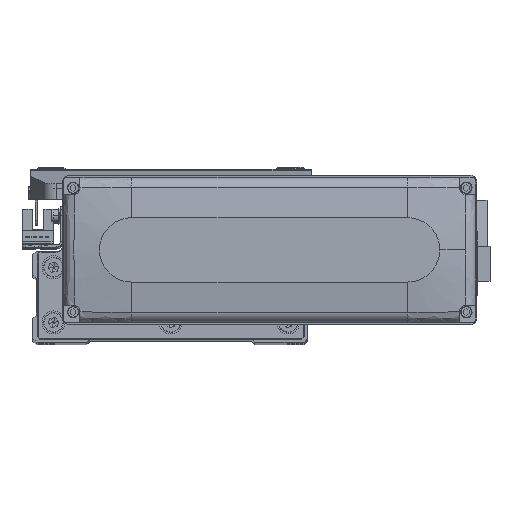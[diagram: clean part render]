
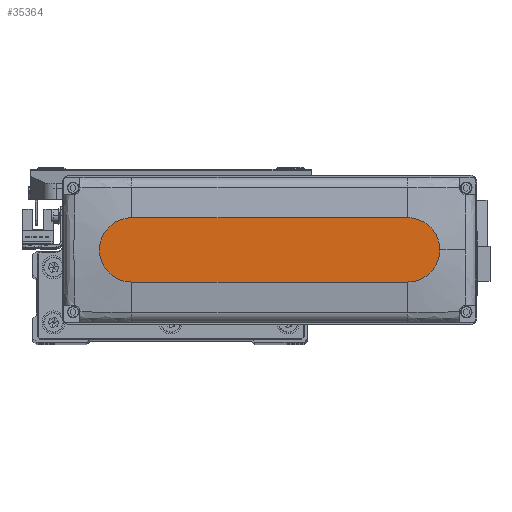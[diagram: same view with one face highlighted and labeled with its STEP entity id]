
A CAD part, top view. The second image highlights one B-rep face of the part: STEP entity #35364.
In plain terms, the highlighted planar face has unit normal (0, 0, 1).
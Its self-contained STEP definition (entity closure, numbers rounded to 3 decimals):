
#495 = CARTESIAN_POINT ( 'NONE',  ( 60., 0., 28.5 ) ) ;
#533 = DIRECTION ( 'NONE',  ( -1., 0., 0. ) ) ;
#1035 = AXIS2_PLACEMENT_3D ( 'NONE', #15197, #39104, #32327 ) ;
#2269 = DIRECTION ( 'NONE',  ( 1., 0., 0. ) ) ;
#2323 = VERTEX_POINT ( 'NONE', #15680 ) ;
#2483 = CARTESIAN_POINT ( 'NONE',  ( 74., 0., 28.5 ) ) ;
#5433 = CARTESIAN_POINT ( 'NONE',  ( -60., 14., 28.5 ) ) ;
#7281 = CARTESIAN_POINT ( 'NONE',  ( 0., 0., 28.5 ) ) ;
#7724 = VERTEX_POINT ( 'NONE', #2483 ) ;
#7793 = DIRECTION ( 'NONE',  ( 1., 0., 0. ) ) ;
#8004 = EDGE_LOOP ( 'NONE', ( #16405, #40919, #39034, #36278, #33274 ) ) ;
#8091 = CIRCLE ( 'NONE', #9760, 14. ) ;
#9760 = AXIS2_PLACEMENT_3D ( 'NONE', #13227, #29082, #2269 ) ;
#11687 = DIRECTION ( 'NONE',  ( 0., 0., 1. ) ) ;
#13227 = CARTESIAN_POINT ( 'NONE',  ( -60., 0., 28.5 ) ) ;
#15197 = CARTESIAN_POINT ( 'NONE',  ( 60., 0., 28.5 ) ) ;
#15680 = CARTESIAN_POINT ( 'NONE',  ( 60., -14., 28.5 ) ) ;
#16145 = EDGE_CURVE ( 'NONE', #41062, #29611, #8091, .T. ) ;
#16405 = ORIENTED_EDGE ( 'NONE', *, *, #29875, .T. ) ;
#19045 = EDGE_CURVE ( 'NONE', #2323, #7724, #35823, .T. ) ;
#20568 = CARTESIAN_POINT ( 'NONE',  ( -60., 14., 28.5 ) ) ;
#21719 = AXIS2_PLACEMENT_3D ( 'NONE', #7281, #11687, #7793 ) ;
#22303 = EDGE_CURVE ( 'NONE', #29611, #2323, #29506, .T. ) ;
#23463 = CIRCLE ( 'NONE', #1035, 14. ) ;
#27037 = FACE_OUTER_BOUND ( 'NONE', #8004, .T. ) ;
#28071 = DIRECTION ( 'NONE',  ( 1., 0., 0. ) ) ;
#29082 = DIRECTION ( 'NONE',  ( 0., 0., 1. ) ) ;
#29479 = EDGE_CURVE ( 'NONE', #7724, #37444, #23463, .T. ) ;
#29506 = LINE ( 'NONE', #37563, #47595 ) ;
#29611 = VERTEX_POINT ( 'NONE', #32575 ) ;
#29875 = EDGE_CURVE ( 'NONE', #37444, #41062, #36932, .T. ) ;
#32327 = DIRECTION ( 'NONE',  ( 1., 0., 0. ) ) ;
#32575 = CARTESIAN_POINT ( 'NONE',  ( -60., -14., 28.5 ) ) ;
#33274 = ORIENTED_EDGE ( 'NONE', *, *, #29479, .T. ) ;
#35364 = ADVANCED_FACE ( 'NONE', ( #27037 ), #42884, .T. ) ;
#35634 = DIRECTION ( 'NONE',  ( 0., 0., 1. ) ) ;
#35823 = CIRCLE ( 'NONE', #44105, 14. ) ;
#36278 = ORIENTED_EDGE ( 'NONE', *, *, #19045, .T. ) ;
#36932 = LINE ( 'NONE', #20568, #40942 ) ;
#37444 = VERTEX_POINT ( 'NONE', #50324 ) ;
#37563 = CARTESIAN_POINT ( 'NONE',  ( -60., -14., 28.5 ) ) ;
#39034 = ORIENTED_EDGE ( 'NONE', *, *, #22303, .T. ) ;
#39104 = DIRECTION ( 'NONE',  ( 0., 0., 1. ) ) ;
#40919 = ORIENTED_EDGE ( 'NONE', *, *, #16145, .T. ) ;
#40942 = VECTOR ( 'NONE', #533, 1000. ) ;
#41062 = VERTEX_POINT ( 'NONE', #5433 ) ;
#42884 = PLANE ( 'NONE',  #21719 ) ;
#44105 = AXIS2_PLACEMENT_3D ( 'NONE', #495, #35634, #28071 ) ;
#46373 = DIRECTION ( 'NONE',  ( 1., 0., 0. ) ) ;
#47595 = VECTOR ( 'NONE', #46373, 1000. ) ;
#50324 = CARTESIAN_POINT ( 'NONE',  ( 60., 14., 28.5 ) ) ;
